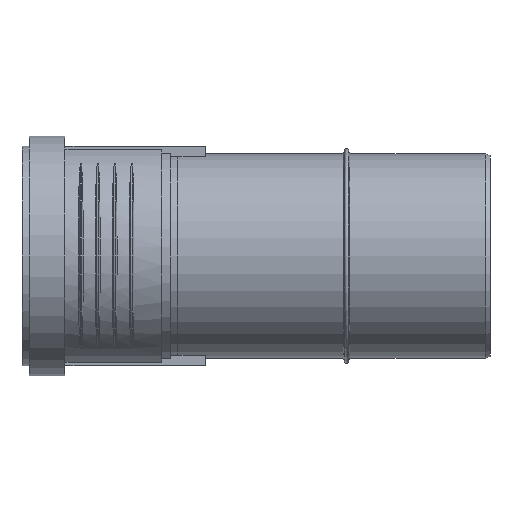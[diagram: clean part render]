
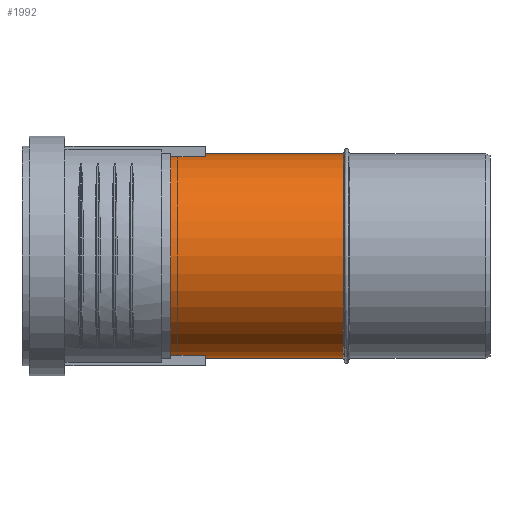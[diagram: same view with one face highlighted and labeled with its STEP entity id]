
A CAD part, left-side view. The second image highlights one B-rep face of the part: STEP entity #1992.
In plain terms, the highlighted cylindrical face has radius 45.1 mm (diameter 90.2 mm), a full revolution.
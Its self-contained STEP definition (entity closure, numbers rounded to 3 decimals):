
#262=CYLINDRICAL_SURFACE($,#2133,45.1);
#428=FACE_BOUND($,#719,.T.);
#429=FACE_BOUND($,#720,.T.);
#490=B_SPLINE_CURVE_WITH_KNOTS($,3,(#2962,#2963,#2964,#2965,#2966,#2967,
#2968,#2969,#2970,#2971,#2972,#2973,#2974,#2975,#2976,#2977,#2978,#2979,
#2980,#2981,#2982,#2983,#2984,#2985,#2986,#2987,#2988,#2989,#2990,#2991,
#2992,#2993,#2994,#2995,#2996,#2997,#2998,#2999,#3000,#3001,#3002,#3003,
#3004,#3005,#3006,#3007,#3008,#3009,#3010,#3011,#3012,#3013,#3014,#3015,
#3016,#3017,#3018,#3019,#3020,#3021,#3022,#3023,#3024,#3025,#3026,#3027),
 .UNSPECIFIED.,.T.,.F.,(4,2,2,2,2,2,2,2,2,2,2,2,2,2,2,2,2,2,2,2,2,2,2,2,
2,2,2,2,2,2,2,2,4),(0.,0.798,1.595,2.393,
3.191,3.942,4.693,5.445,6.196,
6.947,7.699,8.45,9.202,9.999,
10.797,11.595,12.392,13.162,13.932,
14.703,15.473,16.224,16.975,17.726,
18.477,19.228,19.98,20.731,21.482,
22.252,23.022,23.792,24.562),
 .UNSPECIFIED.);
#595=FACE_OUTER_BOUND($,#718,.T.);
#718=EDGE_LOOP($,(#1466));
#719=EDGE_LOOP($,(#1467));
#720=EDGE_LOOP($,(#1468));
#884=CIRCLE($,#2121,45.1);
#889=CIRCLE($,#2130,45.1);
#981=VERTEX_POINT($,#2943);
#986=VERTEX_POINT($,#2957);
#987=VERTEX_POINT($,#2961);
#1183=EDGE_CURVE($,#981,#981,#884,.T.);
#1188=EDGE_CURVE($,#986,#986,#889,.T.);
#1189=EDGE_CURVE($,#987,#987,#490,.T.);
#1466=ORIENTED_EDGE($,*,*,#1183,.T.);
#1467=ORIENTED_EDGE($,*,*,#1188,.T.);
#1468=ORIENTED_EDGE($,*,*,#1189,.T.);
#1992=ADVANCED_FACE($,(#595,#428,#429),#262,.T.);
#2121=AXIS2_PLACEMENT_3D($,#2944,#2358,#2359);
#2130=AXIS2_PLACEMENT_3D($,#2958,#2376,#2377);
#2133=AXIS2_PLACEMENT_3D($,#3028,#2382,#2383);
#2358=DIRECTION('center_axis',(0.,1.,0.));
#2359=DIRECTION('ref_axis',(1.,0.,0.));
#2376=DIRECTION('center_axis',(0.,-1.,0.));
#2377=DIRECTION('ref_axis',(1.,0.,0.));
#2382=DIRECTION('center_axis',(0.,1.,0.));
#2383=DIRECTION('ref_axis',(1.,0.,0.));
#2943=CARTESIAN_POINT('',(-45.1,64.85,0.));
#2944=CARTESIAN_POINT('Origin',(0.,64.85,0.));
#2957=CARTESIAN_POINT('',(45.1,141.94,0.));
#2958=CARTESIAN_POINT('Origin',(0.,141.94,0.));
#2961=CARTESIAN_POINT('',(24.905,102.427,37.6));
#2962=CARTESIAN_POINT('Ctrl Pts',(24.905,102.427,37.6));
#2963=CARTESIAN_POINT('Ctrl Pts',(24.905,105.086,37.6));
#2964=CARTESIAN_POINT('Ctrl Pts',(25.339,107.689,37.32));
#2965=CARTESIAN_POINT('Ctrl Pts',(26.807,112.717,36.28));
#2966=CARTESIAN_POINT('Ctrl Pts',(27.833,115.144,35.52));
#2967=CARTESIAN_POINT('Ctrl Pts',(30.148,119.774,33.576));
#2968=CARTESIAN_POINT('Ctrl Pts',(31.437,121.975,32.392));
#2969=CARTESIAN_POINT('Ctrl Pts',(34.02,126.073,29.668));
#2970=CARTESIAN_POINT('Ctrl Pts',(35.314,127.967,28.127));
#2971=CARTESIAN_POINT('Ctrl Pts',(37.647,131.263,24.908));
#2972=CARTESIAN_POINT('Ctrl Pts',(38.782,132.802,23.129));
#2973=CARTESIAN_POINT('Ctrl Pts',(40.874,135.576,19.192));
#2974=CARTESIAN_POINT('Ctrl Pts',(41.83,136.811,17.034));
#2975=CARTESIAN_POINT('Ctrl Pts',(43.415,138.835,12.452));
#2976=CARTESIAN_POINT('Ctrl Pts',(44.044,139.626,10.023));
#2977=CARTESIAN_POINT('Ctrl Pts',(44.887,140.681,5.049));
#2978=CARTESIAN_POINT('Ctrl Pts',(45.1,140.945,2.505));
#2979=CARTESIAN_POINT('Ctrl Pts',(45.1,140.945,-2.505));
#2980=CARTESIAN_POINT('Ctrl Pts',(44.887,140.681,-5.049));
#2981=CARTESIAN_POINT('Ctrl Pts',(44.044,139.626,-10.023));
#2982=CARTESIAN_POINT('Ctrl Pts',(43.415,138.835,-12.452));
#2983=CARTESIAN_POINT('Ctrl Pts',(41.83,136.811,-17.034));
#2984=CARTESIAN_POINT('Ctrl Pts',(40.874,135.576,-19.192));
#2985=CARTESIAN_POINT('Ctrl Pts',(38.782,132.802,-23.129));
#2986=CARTESIAN_POINT('Ctrl Pts',(37.647,131.263,-24.908));
#2987=CARTESIAN_POINT('Ctrl Pts',(35.314,127.967,-28.127));
#2988=CARTESIAN_POINT('Ctrl Pts',(34.02,126.073,-29.668));
#2989=CARTESIAN_POINT('Ctrl Pts',(31.437,121.975,-32.392));
#2990=CARTESIAN_POINT('Ctrl Pts',(30.148,119.774,-33.576));
#2991=CARTESIAN_POINT('Ctrl Pts',(27.833,115.144,-35.52));
#2992=CARTESIAN_POINT('Ctrl Pts',(26.807,112.717,-36.28));
#2993=CARTESIAN_POINT('Ctrl Pts',(25.339,107.689,-37.32));
#2994=CARTESIAN_POINT('Ctrl Pts',(24.905,105.086,-37.6));
#2995=CARTESIAN_POINT('Ctrl Pts',(24.905,99.86,-37.6));
#2996=CARTESIAN_POINT('Ctrl Pts',(25.313,97.343,-37.337));
#2997=CARTESIAN_POINT('Ctrl Pts',(26.735,92.498,-36.332));
#2998=CARTESIAN_POINT('Ctrl Pts',(27.74,90.168,-35.591));
#2999=CARTESIAN_POINT('Ctrl Pts',(30.025,85.752,-33.686));
#3000=CARTESIAN_POINT('Ctrl Pts',(31.303,83.664,-32.52));
#3001=CARTESIAN_POINT('Ctrl Pts',(33.868,79.794,-29.839));
#3002=CARTESIAN_POINT('Ctrl Pts',(35.155,78.014,-28.323));
#3003=CARTESIAN_POINT('Ctrl Pts',(37.513,74.876,-25.112));
#3004=CARTESIAN_POINT('Ctrl Pts',(38.678,73.395,-23.306));
#3005=CARTESIAN_POINT('Ctrl Pts',(40.817,70.741,-19.316));
#3006=CARTESIAN_POINT('Ctrl Pts',(41.791,69.568,-17.131));
#3007=CARTESIAN_POINT('Ctrl Pts',(43.401,67.652,-12.504));
#3008=CARTESIAN_POINT('Ctrl Pts',(44.038,66.908,-10.055));
#3009=CARTESIAN_POINT('Ctrl Pts',(44.887,65.918,-5.055));
#3010=CARTESIAN_POINT('Ctrl Pts',(45.1,65.673,-2.504));
#3011=CARTESIAN_POINT('Ctrl Pts',(45.1,65.673,2.504));
#3012=CARTESIAN_POINT('Ctrl Pts',(44.887,65.918,5.055));
#3013=CARTESIAN_POINT('Ctrl Pts',(44.038,66.908,10.055));
#3014=CARTESIAN_POINT('Ctrl Pts',(43.401,67.652,12.504));
#3015=CARTESIAN_POINT('Ctrl Pts',(41.791,69.568,17.131));
#3016=CARTESIAN_POINT('Ctrl Pts',(40.817,70.741,19.316));
#3017=CARTESIAN_POINT('Ctrl Pts',(38.678,73.395,23.306));
#3018=CARTESIAN_POINT('Ctrl Pts',(37.513,74.876,25.112));
#3019=CARTESIAN_POINT('Ctrl Pts',(35.155,78.014,28.323));
#3020=CARTESIAN_POINT('Ctrl Pts',(33.868,79.794,29.839));
#3021=CARTESIAN_POINT('Ctrl Pts',(31.303,83.664,32.52));
#3022=CARTESIAN_POINT('Ctrl Pts',(30.025,85.752,33.686));
#3023=CARTESIAN_POINT('Ctrl Pts',(27.74,90.168,35.591));
#3024=CARTESIAN_POINT('Ctrl Pts',(26.735,92.498,36.332));
#3025=CARTESIAN_POINT('Ctrl Pts',(25.313,97.343,37.337));
#3026=CARTESIAN_POINT('Ctrl Pts',(24.905,99.86,37.6));
#3027=CARTESIAN_POINT('Ctrl Pts',(24.905,102.427,37.6));
#3028=CARTESIAN_POINT('Origin',(0.,0.,0.));
